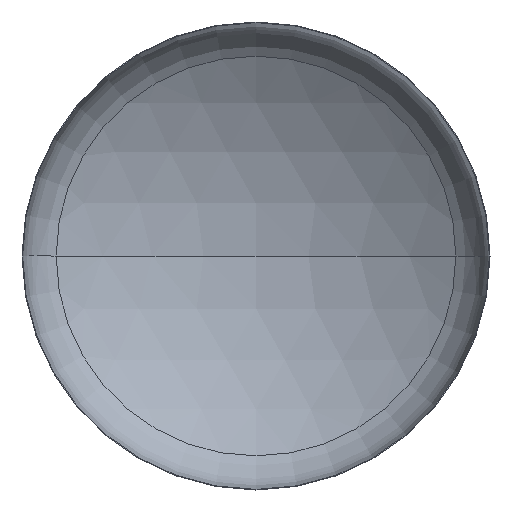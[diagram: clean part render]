
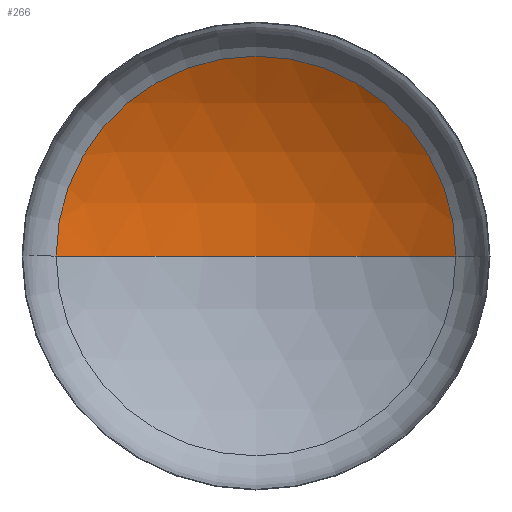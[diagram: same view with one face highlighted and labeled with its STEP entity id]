
A CAD part, front view. The second image highlights one B-rep face of the part: STEP entity #266.
In plain terms, the highlighted spherical face has radius 6400 mm.
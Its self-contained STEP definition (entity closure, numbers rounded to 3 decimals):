
#4 = CARTESIAN_POINT ( 'NONE',  ( 0., -4341.647, 0. ) ) ;
#6 = CARTESIAN_POINT ( 'NONE',  ( 0., -4341.647, 0. ) ) ;
#15 = DIRECTION ( 'NONE',  ( 0., 0., -1. ) ) ;
#50 = AXIS2_PLACEMENT_3D ( 'NONE', #4, #15, #371 ) ;
#80 = AXIS2_PLACEMENT_3D ( 'NONE', #6, #260, #196 ) ;
#82 = CIRCLE ( 'NONE', #80, 6400. ) ;
#85 = DIRECTION ( 'NONE',  ( 0., 0., -1. ) ) ;
#91 = CIRCLE ( 'NONE', #100, 3416.634 ) ;
#98 = AXIS2_PLACEMENT_3D ( 'NONE', #120, #85, #318 ) ;
#100 = AXIS2_PLACEMENT_3D ( 'NONE', #144, #139, #143 ) ;
#119 = VERTEX_POINT ( 'NONE', #311 ) ;
#120 = CARTESIAN_POINT ( 'NONE',  ( 0., -4341.647, 0. ) ) ;
#139 = DIRECTION ( 'NONE',  ( 0., -1., 0. ) ) ;
#143 = DIRECTION ( 'NONE',  ( 1., 0., 0. ) ) ;
#144 = CARTESIAN_POINT ( 'NONE',  ( 0., 1070.063, 0. ) ) ;
#150 = ORIENTED_EDGE ( 'NONE', *, *, #214, .F. ) ;
#178 = ORIENTED_EDGE ( 'NONE', *, *, #202, .T. ) ;
#196 = DIRECTION ( 'NONE',  ( 1., 0., 0. ) ) ;
#202 = EDGE_CURVE ( 'NONE', #364, #390, #91, .T. ) ;
#205 = EDGE_CURVE ( 'NONE', #119, #364, #410, .T. ) ;
#214 = EDGE_CURVE ( 'NONE', #119, #390, #82, .T. ) ;
#260 = DIRECTION ( 'NONE',  ( 0., 0., 1. ) ) ;
#266 = ADVANCED_FACE ( 'NONE', ( #389 ), #327, .F. ) ;
#298 = CARTESIAN_POINT ( 'NONE',  ( -3416.634, 1070.063, 0. ) ) ;
#311 = CARTESIAN_POINT ( 'NONE',  ( 0., 2058.353, 0. ) ) ;
#318 = DIRECTION ( 'NONE',  ( -1., 0., 0. ) ) ;
#327 = SPHERICAL_SURFACE ( 'NONE', #50, 6400. ) ;
#334 = EDGE_LOOP ( 'NONE', ( #150, #408, #178 ) ) ;
#339 = CARTESIAN_POINT ( 'NONE',  ( 3416.634, 1070.063, 0. ) ) ;
#364 = VERTEX_POINT ( 'NONE', #339 ) ;
#371 = DIRECTION ( 'NONE',  ( -1., 0., 0. ) ) ;
#389 = FACE_OUTER_BOUND ( 'NONE', #334, .T. ) ;
#390 = VERTEX_POINT ( 'NONE', #298 ) ;
#408 = ORIENTED_EDGE ( 'NONE', *, *, #205, .T. ) ;
#410 = CIRCLE ( 'NONE', #98, 6400. ) ;
